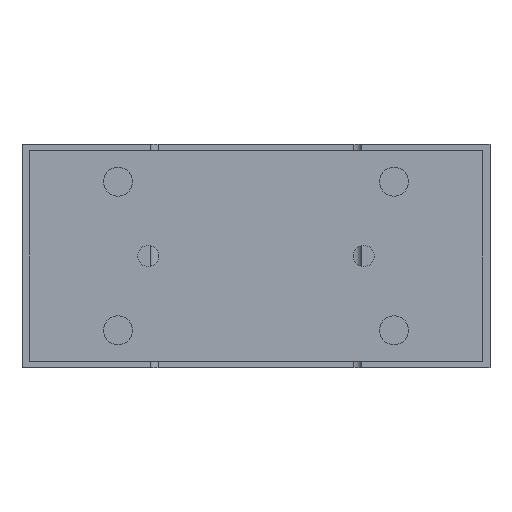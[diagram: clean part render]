
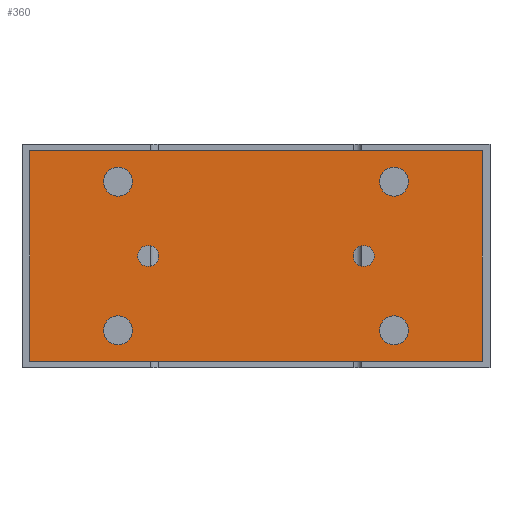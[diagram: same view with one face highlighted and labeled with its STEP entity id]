
A CAD part, left-side view. The second image highlights one B-rep face of the part: STEP entity #360.
In plain terms, the highlighted planar face has unit normal (-1, 0, 0).
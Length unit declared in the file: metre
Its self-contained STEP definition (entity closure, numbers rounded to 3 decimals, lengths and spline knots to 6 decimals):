
#360 = ADVANCED_FACE( '', ( #894, #895, #896, #897, #898, #899, #900 ), #901, .T. );
#894 = FACE_BOUND( '', #1694, .T. );
#895 = FACE_BOUND( '', #1695, .T. );
#896 = FACE_BOUND( '', #1696, .T. );
#897 = FACE_BOUND( '', #1697, .T. );
#898 = FACE_BOUND( '', #1698, .T. );
#899 = FACE_BOUND( '', #1699, .T. );
#900 = FACE_OUTER_BOUND( '', #1700, .T. );
#901 = PLANE( '', #1701 );
#1694 = EDGE_LOOP( '', ( #2699 ) );
#1695 = EDGE_LOOP( '', ( #2700 ) );
#1696 = EDGE_LOOP( '', ( #2701 ) );
#1697 = EDGE_LOOP( '', ( #2702 ) );
#1698 = EDGE_LOOP( '', ( #2703 ) );
#1699 = EDGE_LOOP( '', ( #2704 ) );
#1700 = EDGE_LOOP( '', ( #2705, #2706, #2707, #2708 ) );
#1701 = AXIS2_PLACEMENT_3D( '', #2709, #2710, #2711 );
#2699 = ORIENTED_EDGE( '', *, *, #4033, .F. );
#2700 = ORIENTED_EDGE( '', *, *, #3949, .F. );
#2701 = ORIENTED_EDGE( '', *, *, #4013, .F. );
#2702 = ORIENTED_EDGE( '', *, *, #4034, .F. );
#2703 = ORIENTED_EDGE( '', *, *, #4035, .F. );
#2704 = ORIENTED_EDGE( '', *, *, #3900, .T. );
#2705 = ORIENTED_EDGE( '', *, *, #3912, .T. );
#2706 = ORIENTED_EDGE( '', *, *, #4036, .T. );
#2707 = ORIENTED_EDGE( '', *, *, #4037, .T. );
#2708 = ORIENTED_EDGE( '', *, *, #4038, .T. );
#2709 = CARTESIAN_POINT( '', ( -0.118, -0.086, -0.0025 ) );
#2710 = DIRECTION( '', ( -1., 0., 0. ) );
#2711 = DIRECTION( '', ( 0., 0., 1. ) );
#3900 = EDGE_CURVE( '', #4529, #4529, #4530, .T. );
#3912 = EDGE_CURVE( '', #4549, #4547, #4550, .T. );
#3949 = EDGE_CURVE( '', #4609, #4609, #4610, .T. );
#4013 = EDGE_CURVE( '', #4713, #4713, #4714, .T. );
#4033 = EDGE_CURVE( '', #4743, #4743, #4744, .T. );
#4034 = EDGE_CURVE( '', #4745, #4745, #4746, .T. );
#4035 = EDGE_CURVE( '', #4747, #4747, #4748, .T. );
#4036 = EDGE_CURVE( '', #4547, #4749, #4750, .T. );
#4037 = EDGE_CURVE( '', #4749, #4751, #4752, .T. );
#4038 = EDGE_CURVE( '', #4751, #4549, #4753, .T. );
#4529 = VERTEX_POINT( '', #5433 );
#4530 = CIRCLE( '', #5434, 0.004 );
#4547 = VERTEX_POINT( '', #5458 );
#4549 = VERTEX_POINT( '', #5461 );
#4550 = LINE( '', #5462, #5463 );
#4609 = VERTEX_POINT( '', #5538 );
#4610 = CIRCLE( '', #5539, 0.0055 );
#4713 = VERTEX_POINT( '', #5734 );
#4714 = CIRCLE( '', #5735, 0.0055 );
#4743 = VERTEX_POINT( '', #5776 );
#4744 = CIRCLE( '', #5777, 0.0055 );
#4745 = VERTEX_POINT( '', #5778 );
#4746 = CIRCLE( '', #5779, 0.0055 );
#4747 = VERTEX_POINT( '', #5780 );
#4748 = CIRCLE( '', #5781, 0.004 );
#4749 = VERTEX_POINT( '', #5782 );
#4750 = LINE( '', #5783, #5784 );
#4751 = VERTEX_POINT( '', #5785 );
#4752 = LINE( '', #5786, #5787 );
#4753 = LINE( '', #5788, #5789 );
#5433 = CARTESIAN_POINT( '', ( -0.118, 0.037, -0.0425 ) );
#5434 = AXIS2_PLACEMENT_3D( '', #6621, #6622, #6623 );
#5458 = CARTESIAN_POINT( '', ( -0.118, -0.086, -0.0025 ) );
#5461 = CARTESIAN_POINT( '', ( -0.118, -0.086, -0.0825 ) );
#5462 = CARTESIAN_POINT( '', ( -0.118, -0.086, -0.0825 ) );
#5463 = VECTOR( '', #6632, 1. );
#5538 = CARTESIAN_POINT( '', ( -0.118, 0.0525, -0.06525 ) );
#5539 = AXIS2_PLACEMENT_3D( '', #6679, #6680, #6681 );
#5734 = CARTESIAN_POINT( '', ( -0.118, -0.0525, -0.00875 ) );
#5735 = AXIS2_PLACEMENT_3D( '', #6753, #6754, #6755 );
#5776 = CARTESIAN_POINT( '', ( -0.118, -0.0525, -0.06525 ) );
#5777 = AXIS2_PLACEMENT_3D( '', #6774, #6775, #6776 );
#5778 = CARTESIAN_POINT( '', ( -0.118, 0.0525, -0.00875 ) );
#5779 = AXIS2_PLACEMENT_3D( '', #6777, #6778, #6779 );
#5780 = CARTESIAN_POINT( '', ( -0.118, -0.037, -0.0425 ) );
#5781 = AXIS2_PLACEMENT_3D( '', #6780, #6781, #6782 );
#5782 = CARTESIAN_POINT( '', ( -0.118, 0.086, -0.0025 ) );
#5783 = CARTESIAN_POINT( '', ( -0.118, -0.086, -0.0025 ) );
#5784 = VECTOR( '', #6783, 1. );
#5785 = CARTESIAN_POINT( '', ( -0.118, 0.086, -0.0825 ) );
#5786 = CARTESIAN_POINT( '', ( -0.118, 0.086, -0.0025 ) );
#5787 = VECTOR( '', #6784, 1. );
#5788 = CARTESIAN_POINT( '', ( -0.118, 0.086, -0.0825 ) );
#5789 = VECTOR( '', #6785, 1. );
#6621 = CARTESIAN_POINT( '', ( -0.118, 0.041, -0.0425 ) );
#6622 = DIRECTION( '', ( 1., 0., 0. ) );
#6623 = DIRECTION( '', ( 0., -1., 0. ) );
#6632 = DIRECTION( '', ( 0., 0., 1. ) );
#6679 = CARTESIAN_POINT( '', ( -0.118, 0.0525, -0.07075 ) );
#6680 = DIRECTION( '', ( -1., 0., 0. ) );
#6681 = DIRECTION( '', ( 0., 0., 1. ) );
#6753 = CARTESIAN_POINT( '', ( -0.118, -0.0525, -0.01425 ) );
#6754 = DIRECTION( '', ( -1., 0., 0. ) );
#6755 = DIRECTION( '', ( 0., 0., 1. ) );
#6774 = CARTESIAN_POINT( '', ( -0.118, -0.0525, -0.07075 ) );
#6775 = DIRECTION( '', ( -1., 0., 0. ) );
#6776 = DIRECTION( '', ( 0., 0., 1. ) );
#6777 = CARTESIAN_POINT( '', ( -0.118, 0.0525, -0.01425 ) );
#6778 = DIRECTION( '', ( -1., 0., 0. ) );
#6779 = DIRECTION( '', ( 0., 0., 1. ) );
#6780 = CARTESIAN_POINT( '', ( -0.118, -0.041, -0.0425 ) );
#6781 = DIRECTION( '', ( -1., 0., 0. ) );
#6782 = DIRECTION( '', ( 0., 1., 0. ) );
#6783 = DIRECTION( '', ( 0., 1., 0. ) );
#6784 = DIRECTION( '', ( 0., 0., -1. ) );
#6785 = DIRECTION( '', ( 0., -1., 0. ) );
